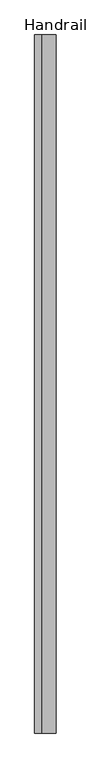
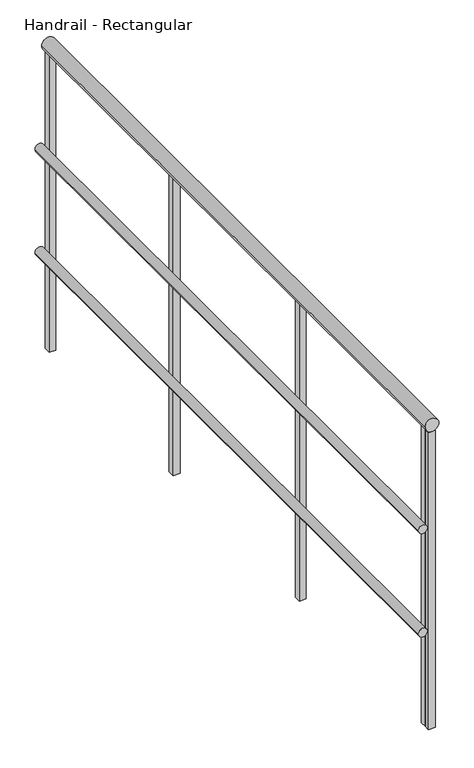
"""IFC4 building model written with IfcOpenShell, lengths in millimetres: railing geometry, Handrail - Rectangular."""

import ifcopenshell
import ifcopenshell.guid

model = None  # the IFC model being written
_history = None  # IfcOwnerHistory: only IFC2X3 demands one
_inside = {}  # id of a spatial element -> (the spatial element, [elements in it])
_under = {}  # id of a project, library or spatial element -> (it, [spatial elements below it])
_declared = {}  # id of a project -> (the project, [libraries it declares])
_typed = {}  # id of a type object -> (the type object, [elements of that type])
_made_of = {}  # id of a material, layer set ... -> (it, [elements and type objects made of it])


def new_model(schema):
    """Start an empty IFC model of exactly this schema.

    Asked for "IFC4X3", IfcOpenShell would pick the latest addendum, in which some entities
    have other attributes; the version numbers below select the first issue.
    IFC2X3 requires an IfcOwnerHistory on every rooted entity: one is made here for all.
    """
    global model, _history
    if schema == "IFC4X3":
        model = ifcopenshell.file(schema_version=(4, 3, 0, 0))
    else:
        model = ifcopenshell.file(schema=schema)
    _inside.clear()
    _under.clear()
    _declared.clear()
    _typed.clear()
    _made_of.clear()
    _history = None
    if model.schema == "IFC2X3":
        org = make("IfcOrganization", Name="unknown")
        user = make(
            "IfcPersonAndOrganization",
            ThePerson=make("IfcPerson", FamilyName="unknown"),
            TheOrganization=org,
        )
        app = make(
            "IfcApplication",
            ApplicationDeveloper=org,
            Version="unknown",
            ApplicationFullName="unknown",
            ApplicationIdentifier="unknown",
        )
        _history = make(
            "IfcOwnerHistory",
            OwningUser=user,
            OwningApplication=app,
            ChangeAction="ADDED",
            CreationDate=0,
        )
    return model


def make(cls, **values):
    """One entity of the class cls with the attributes given. An attribute that is None is left unset."""
    return model.create_entity(
        cls, **{name: value for name, value in values.items() if value is not None}
    )


def rooted(cls, **values):
    """An entity with a GlobalId (a new one), such as an element, a storey or a relation."""
    return make(cls, GlobalId=ifcopenshell.guid.new(), OwnerHistory=_history, **values)


def si_unit(unit_type, name, prefix=None):
    """IfcSIUnit, for example si_unit("LENGTHUNIT", "METRE", prefix="MILLI")."""
    return make("IfcSIUnit", UnitType=unit_type, Prefix=prefix, Name=name)


def assignment(units):
    """IfcUnitAssignment: the units of a project."""
    return None if units is None else make("IfcUnitAssignment", Units=units)


def point(xyz):
    """IfcCartesianPoint."""
    return None if xyz is None else make("IfcCartesianPoint", Coordinates=xyz)


def direction(xyz):
    """IfcDirection."""
    return None if xyz is None else make("IfcDirection", DirectionRatios=xyz)


def frame(location, z_axis=None, x_axis=None):
    """IfcAxis2Placement3D, a coordinate frame: its origin and axes. An axis left out is left unset."""
    return make(
        "IfcAxis2Placement3D",
        Location=point(location),
        Axis=direction(z_axis),
        RefDirection=direction(x_axis),
    )


def frame_2d(location, x_axis=None):
    """IfcAxis2Placement2D, a coordinate frame in the plane: its origin and x axis."""
    return make(
        "IfcAxis2Placement2D", Location=point(location), RefDirection=direction(x_axis)
    )


def origin():
    """The frame at (0, 0, 0) with its axes left unset."""
    return frame((0.0, 0.0, 0.0))


def place(relative_to, where):
    """IfcLocalPlacement: puts the frame where relative to a parent placement (None: the world)."""
    return make(
        "IfcLocalPlacement", PlacementRelTo=relative_to, RelativePlacement=where
    )


def context(
    kind, dimensions, precision=None, world=None, true_north=None, identifier=None
):
    """IfcGeometricRepresentationContext, for example the 3D "Model" context."""
    return make(
        "IfcGeometricRepresentationContext",
        ContextIdentifier=identifier,
        ContextType=kind,
        CoordinateSpaceDimension=dimensions,
        Precision=precision,
        WorldCoordinateSystem=world,
        TrueNorth=true_north,
    )


def project(units=None, contexts=None):
    """IfcProject with its units and contexts."""
    return rooted(
        "IfcProject",
        Name="project",
        RepresentationContexts=contexts,
        UnitsInContext=assignment(units),
    )


def spatial(cls, under=None, at=None, **own):
    """A site, building, storey or space (cls), placed at a placement, below another one or the project."""
    s = rooted(cls, ObjectPlacement=at, **own)
    if under is not None:
        _under.setdefault(under.id(), (under, []))[1].append(s)
    return s


def polyline(points):
    """IfcPolyline through the points."""
    return make("IfcPolyline", Points=[point(p) for p in points])


def circle_curve(where, radius):
    """IfcCircle in the frame where."""
    return make("IfcCircle", Position=where, Radius=radius)


def trimmed(basis, trim1, trim2, sense, master):
    """IfcTrimmedCurve: the piece of a basis curve between two trims."""
    return make(
        "IfcTrimmedCurve",
        BasisCurve=basis,
        Trim1=trim1,
        Trim2=trim2,
        SenseAgreement=sense,
        MasterRepresentation=master,
    )


def segment(curve, same_sense, transition):
    """IfcCompositeCurveSegment."""
    return make(
        "IfcCompositeCurveSegment",
        Transition=transition,
        SameSense=same_sense,
        ParentCurve=curve,
    )


def composite_curve(segments, self_intersect=None):
    """IfcCompositeCurve: segments joined end to end."""
    return make("IfcCompositeCurve", Segments=segments, SelfIntersect=self_intersect)


def outline(outer, holes=None, kind="AREA"):
    """IfcArbitraryClosedProfileDef: a profile drawn as a closed curve; with holes, ...WithVoids."""
    if holes is None:
        return make("IfcArbitraryClosedProfileDef", ProfileType=kind, OuterCurve=outer)
    return make(
        "IfcArbitraryProfileDefWithVoids",
        ProfileType=kind,
        OuterCurve=outer,
        InnerCurves=holes,
    )


def extrude(swept, where, along, depth):
    """IfcExtrudedAreaSolid: the profile swept, set in the frame where, extruded along a direction by depth."""
    return make(
        "IfcExtrudedAreaSolid",
        SweptArea=swept,
        Position=where,
        ExtrudedDirection=direction(along),
        Depth=depth,
    )


def shape(context_of_items, identifier, shape_type, items):
    """IfcShapeRepresentation: the items that make up one representation, for example the "Body"."""
    return make(
        "IfcShapeRepresentation",
        ContextOfItems=context_of_items,
        RepresentationIdentifier=identifier,
        RepresentationType=shape_type,
        Items=items,
    )


def source(mapping_origin, context_of_items, identifier, shape_type, items):
    """IfcRepresentationMap: a shape defined once, which mapped items show again and again."""
    return make(
        "IfcRepresentationMap",
        MappingOrigin=mapping_origin,
        MappedRepresentation=shape(context_of_items, identifier, shape_type, items),
    )


def transform(
    local_origin,
    x_axis=None,
    y_axis=None,
    z_axis=None,
    scale=None,
    scale2=None,
    scale3=None,
    uniform=True,
):
    """IfcCartesianTransformationOperator3D, or its non-uniform kind. x_axis, y_axis, z_axis: its Axis1, 2, 3."""
    if uniform:
        return make(
            "IfcCartesianTransformationOperator3D",
            Axis1=direction(x_axis),
            Axis2=direction(y_axis),
            LocalOrigin=point(local_origin),
            Scale=scale,
            Axis3=direction(z_axis),
        )
    return make(
        "IfcCartesianTransformationOperator3DnonUniform",
        Axis1=direction(x_axis),
        Axis2=direction(y_axis),
        LocalOrigin=point(local_origin),
        Scale=scale,
        Axis3=direction(z_axis),
        Scale2=scale2,
        Scale3=scale3,
    )


def mapped(mapping_source, mapping_target):
    """IfcMappedItem: shows the shape of a source again, moved by a transform."""
    return make(
        "IfcMappedItem", MappingSource=mapping_source, MappingTarget=mapping_target
    )


def made_of(thing, what):
    """Note that an element or type object is made of a material, layer set ...; save() writes the relation."""
    if what is not None:
        _made_of.setdefault(what.id(), (what, []))[1].append(thing)
    return thing


def element(
    cls,
    number,
    at=None,
    inside=None,
    cuts=None,
    type_object=None,
    material=None,
    context=None,
    identifier="Body",
    shape_type=None,
    held_by="IfcProductDefinitionShape",
    body=None,
    shapes=None,
    **own,
):
    """One element of the class cls, such as IfcWall. Its Tag is "e" and its number.

    at: its placement. inside: the storey or other place that contains it. cuts: it is an
    opening in that element (IfcRelVoidsElement). A single representation is given by context,
    identifier, shape_type and body (its items); several are given by shapes. held_by: the class
    of the entity that holds the representations. save() writes the other relations.
    """
    e = rooted(cls, Tag="e%d" % number, ObjectPlacement=at, **own)
    if body is not None:
        shapes = [shape(context, identifier, shape_type, body)]
    if shapes is not None:
        e.Representation = make(held_by, Representations=shapes)
    if inside is not None:
        _inside.setdefault(inside.id(), (inside, []))[1].append(e)
    if cuts is not None:
        rooted(
            "IfcRelVoidsElement", RelatingBuildingElement=cuts, RelatedOpeningElement=e
        )
    if type_object is not None:
        _typed.setdefault(type_object.id(), (type_object, []))[1].append(e)
    return made_of(e, material)


def aggregate(whole, parts):
    """IfcRelAggregates: a whole, such as a stair, and the parts it consists of."""
    return rooted("IfcRelAggregates", RelatingObject=whole, RelatedObjects=parts)


def save(model, path):
    """Write the relations noted so far, then the file.

    IfcRelAggregates (storeys below a building ...), IfcRelContainedInSpatialStructure (elements
    in a storey), IfcRelDefinesByType, IfcRelAssociatesMaterial and IfcRelDeclares: one each for
    every whole, place, type object, material and project.
    """
    for whole, parts in _under.values():
        aggregate(whole, parts)
    for where, things in _inside.values():
        rooted(
            "IfcRelContainedInSpatialStructure",
            RelatedElements=things,
            RelatingStructure=where,
        )
    for kind, things in _typed.values():
        rooted("IfcRelDefinesByType", RelatedObjects=things, RelatingType=kind)
    for what, things in _made_of.values():
        rooted("IfcRelAssociatesMaterial", RelatedObjects=things, RelatingMaterial=what)
    for by, libraries in _declared.values():
        rooted("IfcRelDeclares", RelatingContext=by, RelatedDefinitions=libraries)
    model.write(path)


def handrail_rectangular_cdd016d1(model_context):
    return source(origin(), model_context, "Body", "SweptSolid", [
        extrude(outline(composite_curve([segment(trimmed(circle_curve(frame_2d((9740.9, -32192.8839563)), 12.7), [point((9740.9, -32205.5839563))], [point((9740.9, -32180.1839563))], False, "CARTESIAN"), True, "CONTINUOUS"), segment(trimmed(circle_curve(frame_2d((9740.9, -32192.8839563)), 12.7), [point((9740.9, -32180.1839563))], [point((9740.9, -32205.5839563))], False, "CARTESIAN"), True, "CONTINUOUS")], self_intersect=False)), frame((0.0, 4578.8316867, 0.0), z_axis=(0.0, 1.0, 0.0), x_axis=(0.0, 0.0, 1.0)), (0.0, 0.0, 1.0), 1854.2),
        extrude(outline(composite_curve([segment(trimmed(circle_curve(frame_2d((9436.1, -32192.8839563)), 12.7), [point((9436.1, -32205.5839563))], [point((9436.1, -32180.1839563))], False, "CARTESIAN"), True, "CONTINUOUS"), segment(trimmed(circle_curve(frame_2d((9436.1, -32192.8839563)), 12.7), [point((9436.1, -32180.1839563))], [point((9436.1, -32205.5839563))], False, "CARTESIAN"), True, "CONTINUOUS")], self_intersect=False)), frame((0.0, 4578.8316867, 0.0), z_axis=(0.0, 1.0, 0.0), x_axis=(0.0, 0.0, 1.0)), (0.0, 0.0, 1.0), 1854.2),
        extrude(outline(composite_curve([segment(trimmed(circle_curve(frame_2d((10039.35, -32167.4839563)), 19.05), [point((10039.35, -32186.5339563))], [point((10039.35, -32148.4339563))], False, "CARTESIAN"), True, "CONTINUOUS"), segment(trimmed(circle_curve(frame_2d((10039.35, -32167.4839563)), 19.05), [point((10039.35, -32148.4339563))], [point((10039.35, -32186.5339563))], False, "CARTESIAN"), True, "CONTINUOUS")], self_intersect=False)), frame((0.0, 4578.8316867, 0.0), z_axis=(0.0, 1.0, 0.0), x_axis=(0.0, 0.0, 1.0)), (0.0, 0.0, 1.0), 1854.2),
        extrude(outline(polyline([(-32157.9589563, 4613.7566867), (-32157.9589563, 4594.7066867), (-32177.0089563, 4594.7066867), (-32177.0089563, 4613.7566867), (-32157.9589563, 4613.7566867)])), frame((0.0, 0.0, 9144.0), z_axis=(0.0, 0.0, 1.0), x_axis=(1.0, 0.0, 0.0)), (0.0, 0.0, 1.0), 876.3),
        extrude(outline(polyline([(-32157.9589563, 5223.3566867), (-32157.9589563, 5204.3066867), (-32177.0089563, 5204.3066867), (-32177.0089563, 5223.3566867), (-32157.9589563, 5223.3566867)])), frame((0.0, 0.0, 9144.0), z_axis=(0.0, 0.0, 1.0), x_axis=(1.0, 0.0, 0.0)), (0.0, 0.0, 1.0), 876.3),
        extrude(outline(polyline([(-32157.9589563, 5832.9566867), (-32157.9589563, 5813.9066867), (-32177.0089563, 5813.9066867), (-32177.0089563, 5832.9566867), (-32157.9589563, 5832.9566867)])), frame((0.0, 0.0, 9144.0), z_axis=(0.0, 0.0, 1.0), x_axis=(1.0, 0.0, 0.0)), (0.0, 0.0, 1.0), 876.3),
        extrude(outline(polyline([(-32157.9589563, 4597.8816867), (-32157.9589563, 4578.8316867), (-32177.0089563, 4578.8316867), (-32177.0089563, 4597.8816867), (-32157.9589563, 4597.8816867)])), frame((0.0, 0.0, 9144.0), z_axis=(0.0, 0.0, 1.0), x_axis=(1.0, 0.0, 0.0)), (0.0, 0.0, 1.0), 876.3),
        extrude(outline(polyline([(-32157.9589563, 6433.0316867), (-32157.9589563, 6413.9816867), (-32177.0089563, 6413.9816867), (-32177.0089563, 6433.0316867), (-32157.9589563, 6433.0316867)])), frame((0.0, 0.0, 9144.0), z_axis=(0.0, 0.0, 1.0), x_axis=(1.0, 0.0, 0.0)), (0.0, 0.0, 1.0), 876.3),
    ])


if __name__ == "__main__":
    model = new_model("IFC4")
    model_context = context("Model", 3, world=origin())
    ifc_project = project(units=[si_unit("LENGTHUNIT", "METRE", prefix="MILLI")], contexts=[model_context])
    site = spatial("IfcSite", under=ifc_project)
    building = spatial("IfcBuilding", under=site)
    placement = place(None, origin())
    handrail_rectangular_shape = handrail_rectangular_cdd016d1(model_context)
    element("IfcRailing", 1, ObjectType="Handrail - Rectangular", at=placement, inside=building, context=model_context, shape_type="MappedRepresentation", body=[
        mapped(handrail_rectangular_shape, transform((0.0, 0.0, 0.0), x_axis=(1.0, 0.0, 0.0), y_axis=(0.0, 1.0, 0.0), z_axis=(0.0, 0.0, 1.0))),
    ])
    save(model, "model.ifc")
